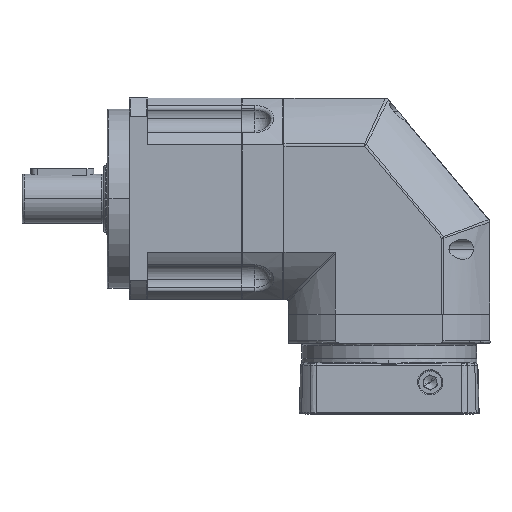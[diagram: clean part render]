
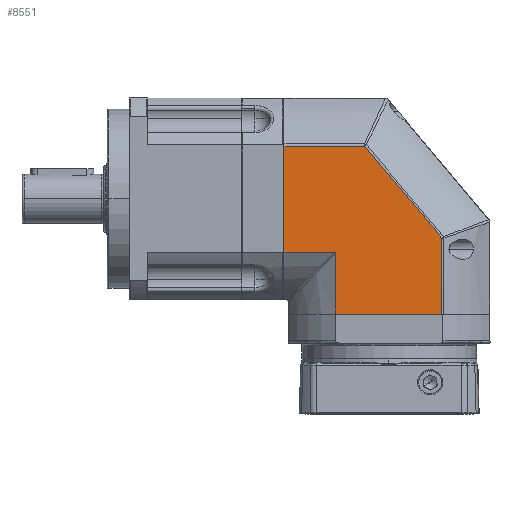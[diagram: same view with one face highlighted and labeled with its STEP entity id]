
A CAD part, top view. The second image highlights one B-rep face of the part: STEP entity #8551.
In plain terms, the highlighted planar face has unit normal (0, 0, 1).
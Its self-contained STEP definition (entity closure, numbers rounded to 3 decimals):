
#387 = EDGE_CURVE ( 'NONE', #35530, #5703, #32005, .T. ) ;
#704 = CARTESIAN_POINT ( 'NONE',  ( 70.495, 27.445, 90. ) ) ;
#733 = CARTESIAN_POINT ( 'NONE',  ( 70.495, -6.5, 90. ) ) ;
#1233 = EDGE_CURVE ( 'NONE', #34939, #12742, #35197, .T. ) ;
#2045 = CARTESIAN_POINT ( 'NONE',  ( 22.529, 21., 90. ) ) ;
#2328 = CARTESIAN_POINT ( 'NONE',  ( 22.993, 20.656, 90. ) ) ;
#3248 = LINE ( 'NONE', #7716, #18701 ) ;
#3795 = ORIENTED_EDGE ( 'NONE', *, *, #30684, .T. ) ;
#4900 = PLANE ( 'NONE',  #30153 ) ;
#5039 = DIRECTION ( 'NONE',  ( 1., 0., 0. ) ) ;
#5423 = CARTESIAN_POINT ( 'NONE',  ( 23., 20.529, 90. ) ) ;
#5703 = VERTEX_POINT ( 'NONE', #733 ) ;
#6606 = CARTESIAN_POINT ( 'NONE',  ( 70.495, 0., 90. ) ) ;
#7267 = VECTOR ( 'NONE', #32226, 1000. ) ;
#7716 = CARTESIAN_POINT ( 'NONE',  ( 0., 21., 90. ) ) ;
#8160 = CARTESIAN_POINT ( 'NONE',  ( 23., 0., 90. ) ) ;
#8346 = CARTESIAN_POINT ( 'NONE',  ( 22.593, 21., 90. ) ) ;
#8551 = ADVANCED_FACE ( 'NONE', ( #25385 ), #4900, .T. ) ;
#8673 = CARTESIAN_POINT ( 'NONE',  ( 0., 68.495, 90. ) ) ;
#8685 = LINE ( 'NONE', #39689, #17904 ) ;
#9920 = VERTEX_POINT ( 'NONE', #39752 ) ;
#10825 = DIRECTION ( 'NONE',  ( 1., 0., 0. ) ) ;
#11180 = CARTESIAN_POINT ( 'NONE',  ( 0., 21., 90. ) ) ;
#11282 = DIRECTION ( 'NONE',  ( 0., -1., 0. ) ) ;
#11805 = DIRECTION ( 'NONE',  ( -1., 0., 0. ) ) ;
#12742 = VERTEX_POINT ( 'NONE', #28911 ) ;
#12800 = DIRECTION ( 'NONE',  ( 0., 1., 0. ) ) ;
#13174 = DIRECTION ( 'NONE',  ( 0., 1., 0. ) ) ;
#14584 = CARTESIAN_POINT ( 'NONE',  ( 22.656, 20.993, 90. ) ) ;
#15690 = ORIENTED_EDGE ( 'NONE', *, *, #20489, .T. ) ;
#16633 = EDGE_CURVE ( 'NONE', #5703, #21902, #39406, .T. ) ;
#17301 = CARTESIAN_POINT ( 'NONE',  ( 0., 0., 90. ) ) ;
#17696 = CARTESIAN_POINT ( 'NONE',  ( 22.835, 20.924, 90. ) ) ;
#17904 = VECTOR ( 'NONE', #35844, 1000. ) ;
#18678 = LINE ( 'NONE', #8160, #26984 ) ;
#18701 = VECTOR ( 'NONE', #10825, 1000. ) ;
#18703 = ORIENTED_EDGE ( 'NONE', *, *, #20812, .T. ) ;
#18979 = EDGE_LOOP ( 'NONE', ( #32679, #24496, #15690, #18703, #33083, #35661, #3795, #20176 ) ) ;
#20176 = ORIENTED_EDGE ( 'NONE', *, *, #26426, .T. ) ;
#20246 = CARTESIAN_POINT ( 'NONE',  ( 23., 20.529, 90. ) ) ;
#20489 = EDGE_CURVE ( 'NONE', #9920, #38789, #35374, .T. ) ;
#20812 = EDGE_CURVE ( 'NONE', #38789, #35530, #18678, .T. ) ;
#20853 = CARTESIAN_POINT ( 'NONE',  ( 22.955, 20.778, 90. ) ) ;
#21902 = VERTEX_POINT ( 'NONE', #704 ) ;
#22305 = VECTOR ( 'NONE', #12800, 1000. ) ;
#22827 = CARTESIAN_POINT ( 'NONE',  ( 36.05, 68.495, 90. ) ) ;
#23601 = DIRECTION ( 'NONE',  ( 0., 0., 1. ) ) ;
#23988 = CARTESIAN_POINT ( 'NONE',  ( 23., 20.593, 90. ) ) ;
#24496 = ORIENTED_EDGE ( 'NONE', *, *, #26063, .T. ) ;
#25069 = CARTESIAN_POINT ( 'NONE',  ( 23., -6.5, 90. ) ) ;
#25385 = FACE_OUTER_BOUND ( 'NONE', #18979, .T. ) ;
#26063 = EDGE_CURVE ( 'NONE', #34939, #9920, #3248, .T. ) ;
#26186 = CARTESIAN_POINT ( 'NONE',  ( 0., -6.5, 90. ) ) ;
#26426 = EDGE_CURVE ( 'NONE', #31859, #12742, #27476, .T. ) ;
#26984 = VECTOR ( 'NONE', #11282, 1000. ) ;
#27169 = VECTOR ( 'NONE', #13174, 1000. ) ;
#27476 = LINE ( 'NONE', #8673, #34596 ) ;
#28911 = CARTESIAN_POINT ( 'NONE',  ( 0., 68.495, 90. ) ) ;
#30153 = AXIS2_PLACEMENT_3D ( 'NONE', #17301, #23601, #5039 ) ;
#30684 = EDGE_CURVE ( 'NONE', #21902, #31859, #8685, .T. ) ;
#31859 = VERTEX_POINT ( 'NONE', #22827 ) ;
#32005 = LINE ( 'NONE', #26186, #7267 ) ;
#32226 = DIRECTION ( 'NONE',  ( 1., 0., 0. ) ) ;
#32679 = ORIENTED_EDGE ( 'NONE', *, *, #1233, .F. ) ;
#33083 = ORIENTED_EDGE ( 'NONE', *, *, #387, .T. ) ;
#34596 = VECTOR ( 'NONE', #11805, 1000. ) ;
#34654 = CARTESIAN_POINT ( 'NONE',  ( 0., 82.693, 90. ) ) ;
#34939 = VERTEX_POINT ( 'NONE', #11180 ) ;
#35197 = LINE ( 'NONE', #34654, #27169 ) ;
#35374 = B_SPLINE_CURVE_WITH_KNOTS ( 'NONE', 3,
 ( #2045, #8346, #14584, #36114, #17696, #39071, #20853, #2328, #23988, #5423 ),
 .UNSPECIFIED., .F., .F.,
 ( 4, 2, 2, 2, 4 ),
 ( 0., 0., 0., 0.001, 0.001 ),
 .UNSPECIFIED. ) ;
#35530 = VERTEX_POINT ( 'NONE', #25069 ) ;
#35661 = ORIENTED_EDGE ( 'NONE', *, *, #16633, .T. ) ;
#35844 = DIRECTION ( 'NONE',  ( -0.643, 0.766, 0. ) ) ;
#36114 = CARTESIAN_POINT ( 'NONE',  ( 22.778, 20.955, 90. ) ) ;
#38789 = VERTEX_POINT ( 'NONE', #20246 ) ;
#39071 = CARTESIAN_POINT ( 'NONE',  ( 22.924, 20.835, 90. ) ) ;
#39406 = LINE ( 'NONE', #6606, #22305 ) ;
#39689 = CARTESIAN_POINT ( 'NONE',  ( 70.495, 27.445, 90. ) ) ;
#39752 = CARTESIAN_POINT ( 'NONE',  ( 22.529, 21., 90. ) ) ;
